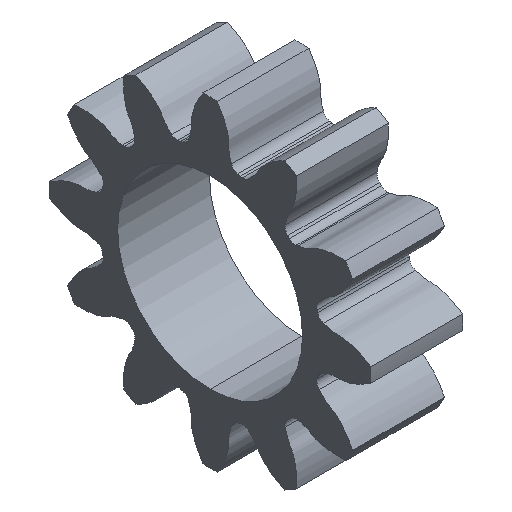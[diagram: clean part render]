
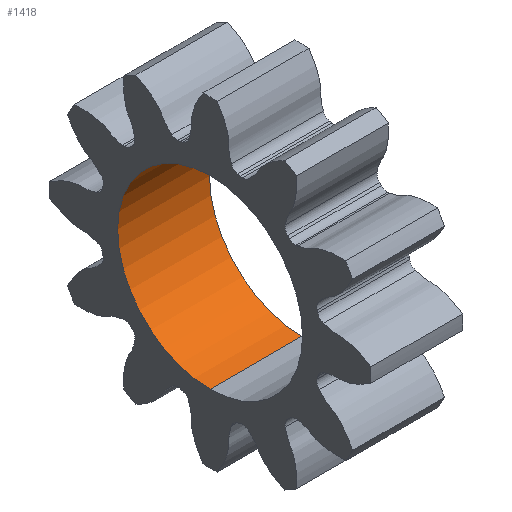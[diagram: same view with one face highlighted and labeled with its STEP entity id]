
A CAD part, isometric view. The second image highlights one B-rep face of the part: STEP entity #1418.
In plain terms, the highlighted cylindrical face has radius 4.025 mm (diameter 8.05 mm), a partial arc.
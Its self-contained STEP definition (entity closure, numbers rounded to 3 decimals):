
#34 = ORIENTED_EDGE ( 'NONE', *, *, #524, .T. ) ;
#50 = LINE ( 'NONE', #2337, #3734 ) ;
#132 = ORIENTED_EDGE ( 'NONE', *, *, #1349, .F. ) ;
#183 = VERTEX_POINT ( 'NONE', #2581 ) ;
#491 = CARTESIAN_POINT ( 'NONE',  ( 0.5, 0., 0. ) ) ;
#524 = EDGE_CURVE ( 'NONE', #3170, #2669, #1384, .T. ) ;
#697 = DIRECTION ( 'NONE',  ( 1., 0., 0. ) ) ;
#765 = CARTESIAN_POINT ( 'NONE',  ( -6.5, 0., 4.025 ) ) ;
#971 = CARTESIAN_POINT ( 'NONE',  ( 4.5, 0., -4.025 ) ) ;
#1211 = FACE_OUTER_BOUND ( 'NONE', #3128, .T. ) ;
#1341 = DIRECTION ( 'NONE',  ( 1., 0., 0. ) ) ;
#1349 = EDGE_CURVE ( 'NONE', #3170, #183, #3974, .T. ) ;
#1384 = CIRCLE ( 'NONE', #3880, 4.025 ) ;
#1418 = ADVANCED_FACE ( 'NONE', ( #1211 ), #3069, .F. ) ;
#1502 = CARTESIAN_POINT ( 'NONE',  ( 0.5, 0., 4.025 ) ) ;
#1701 = DIRECTION ( 'NONE',  ( 1., 0., 0. ) ) ;
#1741 = DIRECTION ( 'NONE',  ( 0., 0., 1. ) ) ;
#1796 = CIRCLE ( 'NONE', #3080, 4.025 ) ;
#1866 = VECTOR ( 'NONE', #697, 1000. ) ;
#2066 = VERTEX_POINT ( 'NONE', #971 ) ;
#2078 = AXIS2_PLACEMENT_3D ( 'NONE', #2728, #4062, #2457 ) ;
#2337 = CARTESIAN_POINT ( 'NONE',  ( -6.5, 0., -4.025 ) ) ;
#2457 = DIRECTION ( 'NONE',  ( 0., 0., -1. ) ) ;
#2539 = EDGE_CURVE ( 'NONE', #2066, #183, #1796, .T. ) ;
#2581 = CARTESIAN_POINT ( 'NONE',  ( 4.5, 0., 4.025 ) ) ;
#2669 = VERTEX_POINT ( 'NONE', #3410 ) ;
#2728 = CARTESIAN_POINT ( 'NONE',  ( -6.5, 0., 0. ) ) ;
#2886 = ORIENTED_EDGE ( 'NONE', *, *, #4037, .T. ) ;
#3069 = CYLINDRICAL_SURFACE ( 'NONE', #2078, 4.025 ) ;
#3080 = AXIS2_PLACEMENT_3D ( 'NONE', #3901, #1701, #3563 ) ;
#3128 = EDGE_LOOP ( 'NONE', ( #132, #34, #2886, #3304 ) ) ;
#3170 = VERTEX_POINT ( 'NONE', #1502 ) ;
#3304 = ORIENTED_EDGE ( 'NONE', *, *, #2539, .T. ) ;
#3410 = CARTESIAN_POINT ( 'NONE',  ( 0.5, 0., -4.025 ) ) ;
#3563 = DIRECTION ( 'NONE',  ( 0., 0., -1. ) ) ;
#3700 = DIRECTION ( 'NONE',  ( -1., 0., 0. ) ) ;
#3734 = VECTOR ( 'NONE', #1341, 1000. ) ;
#3880 = AXIS2_PLACEMENT_3D ( 'NONE', #491, #3700, #1741 ) ;
#3901 = CARTESIAN_POINT ( 'NONE',  ( 4.5, 0., 0. ) ) ;
#3974 = LINE ( 'NONE', #765, #1866 ) ;
#4037 = EDGE_CURVE ( 'NONE', #2669, #2066, #50, .T. ) ;
#4062 = DIRECTION ( 'NONE',  ( 1., 0., 0. ) ) ;
